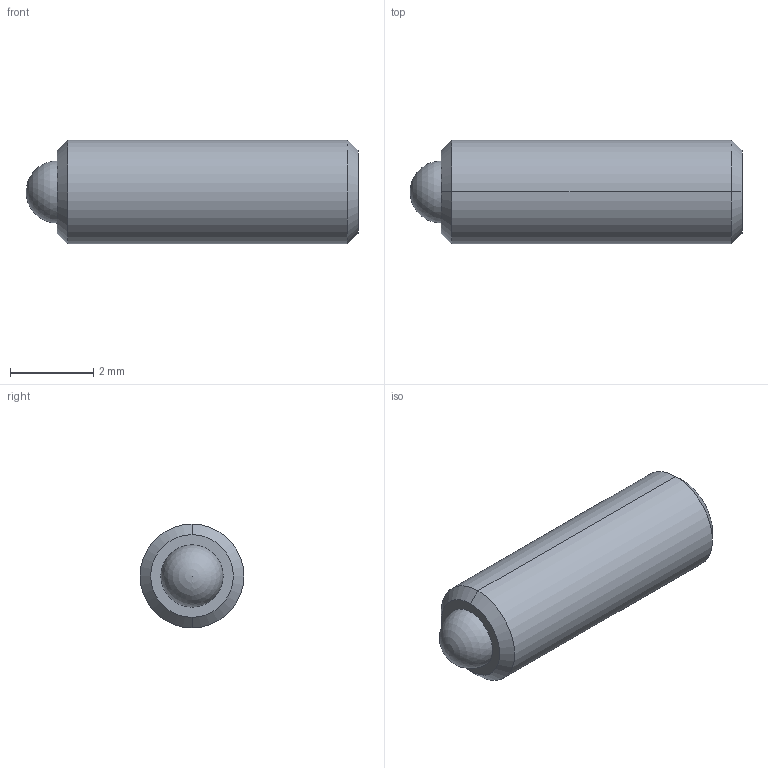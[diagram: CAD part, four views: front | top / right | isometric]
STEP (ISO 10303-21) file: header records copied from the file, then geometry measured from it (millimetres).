
FILE_DESCRIPTION (( 'STEP AP214' ), '1' );
FILE_NAME ('TS25-20-08.STEP', '2015-04-29T16:26:37', ( 'workpc' ), ( 'Microsoft' ), 'SwSTEP 2.0', 'SolidWorks 2013', '' );
FILE_SCHEMA (( 'AUTOMOTIVE_DESIGN' ));
Length unit declared in the file: millimetre
Products named in the file (1): TS25-20-08
Bounding box: 8 x 2.5 x 2.5 mm (x, y, z)
Volume: 31.6 mm3; surface area: 85.5 mm2
Topology: 2 solids, 2 shells, 20 faces, 45 edges, 29 vertices
Faces by surface type: plane 10, cylinder 4, cone 4, sphere 2
Entity records: 587 total; most frequent: DIRECTION 96, CARTESIAN_POINT 87, ORIENTED_EDGE 80, EDGE_CURVE 40, AXIS2_PLACEMENT_3D 35, LINE 26, VECTOR 26, VERTEX_POINT 26
